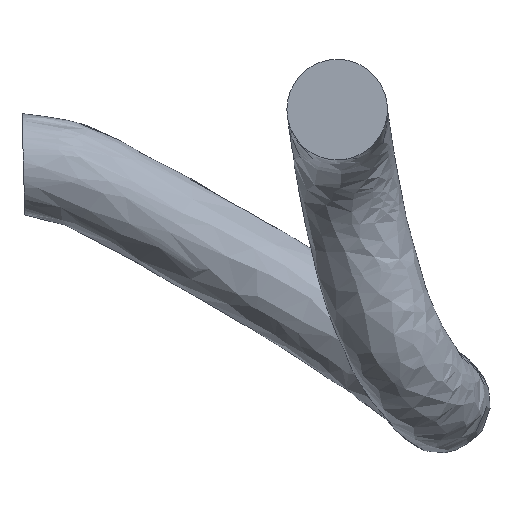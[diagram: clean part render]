
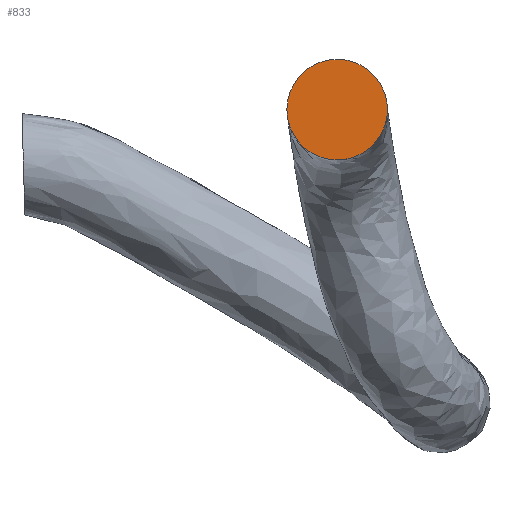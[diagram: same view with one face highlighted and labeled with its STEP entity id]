
A CAD part, front view. The second image highlights one B-rep face of the part: STEP entity #833.
In plain terms, the highlighted planar face has unit normal (0, -1, 0).
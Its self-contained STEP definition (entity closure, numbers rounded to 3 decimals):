
#13 = DIRECTION ( 'NONE',  ( 0., 0., -1. ) ) ;
#94 = ORIENTED_EDGE ( 'NONE', *, *, #643, .F. ) ;
#194 = AXIS2_PLACEMENT_3D ( 'NONE', #854, #752, #13 ) ;
#207 = PLANE ( 'NONE',  #958 ) ;
#219 = DIRECTION ( 'NONE',  ( 0., 0., -1. ) ) ;
#228 = CARTESIAN_POINT ( 'NONE',  ( 1857., -76.09, 2208.59 ) ) ;
#392 = FACE_OUTER_BOUND ( 'NONE', #816, .T. ) ;
#631 = CIRCLE ( 'NONE', #194, 40. ) ;
#643 = EDGE_CURVE ( 'NONE', #804, #804, #631, .T. ) ;
#752 = DIRECTION ( 'NONE',  ( 0., 1., 0. ) ) ;
#787 = CARTESIAN_POINT ( 'NONE',  ( 1857., -76.09, 2248.59 ) ) ;
#804 = VERTEX_POINT ( 'NONE', #228 ) ;
#816 = EDGE_LOOP ( 'NONE', ( #94 ) ) ;
#833 = ADVANCED_FACE ( 'NONE', ( #392 ), #207, .T. ) ;
#854 = CARTESIAN_POINT ( 'NONE',  ( 1857., -76.09, 2248.59 ) ) ;
#958 = AXIS2_PLACEMENT_3D ( 'NONE', #787, #1043, #219 ) ;
#1043 = DIRECTION ( 'NONE',  ( 0., -1., 0. ) ) ;
